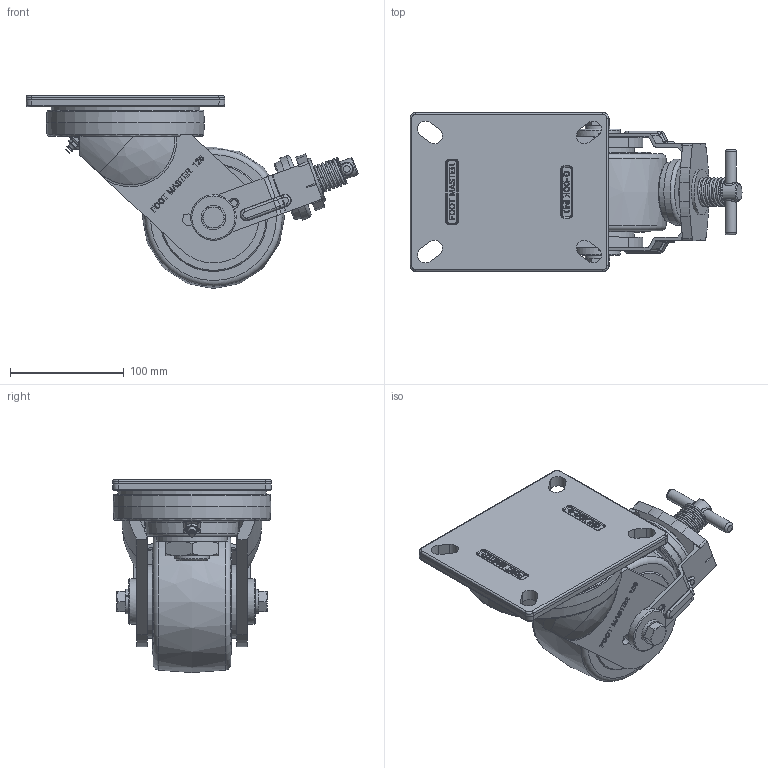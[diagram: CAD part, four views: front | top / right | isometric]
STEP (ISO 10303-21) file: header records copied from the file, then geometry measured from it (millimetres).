
FILE_DESCRIPTION(/* description */ (''),/* implementation_level */ '2;1');
FILE_NAME(/* name */ 'Y:\1.기술연구소\2.연구개발 진행중\133.고하중캐스터 브레이크 타입 변경건_2025.11.03\1.도면\4.홈페이지용 도면\01. 3D\GXT-125 SERIES\GXT-125-STEP\GXT-125-BSF-MCD.stp',/* time_stamp */ '2026-07-22T10:45:19+09:00',/* author */ ('장용하'),/* organization */ (''),/* preprocessor_version */ 'ST-DEVELOPER v18.1',/* originating_system */ 'Autodesk Inventor 2021',/* authorisation */ '');
FILE_SCHEMA (('CONFIG_CONTROL_DESIGN'));
Products named in the file (1): GXT-125-BSF-MCD
Bounding box: 292.28 x 140 x 170 mm (x, y, z)
Volume: 1910881.4 mm3; surface area: 204153.2 mm2
Topology: 1 solids, 1 shells, 1728 faces, 4647 edges, 3039 vertices
Faces by surface type: plane 814, bspline 616, cylinder 199, torus 53, cone 42, sphere 4
Full cylindrical faces by diameter (mm): 10 x2, 12 x2, 13 x2, 16 x1, 20 x1, 30 x1, 31.606 x1, 37.448 x2, 40 x3, 54 x2, 58 x1, 62.5 x1, 65 x2, 131.086 x1
Entity records: 59155 total; most frequent: CARTESIAN_POINT 19595, ORIENTED_EDGE 9294, DIRECTION 6297, EDGE_CURVE 4647, VERTEX_POINT 3041, LINE 2645, VECTOR 2645, EDGE_LOOP 1876
